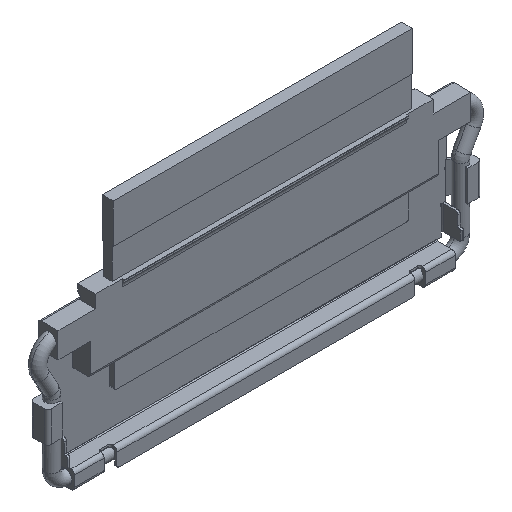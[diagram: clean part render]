
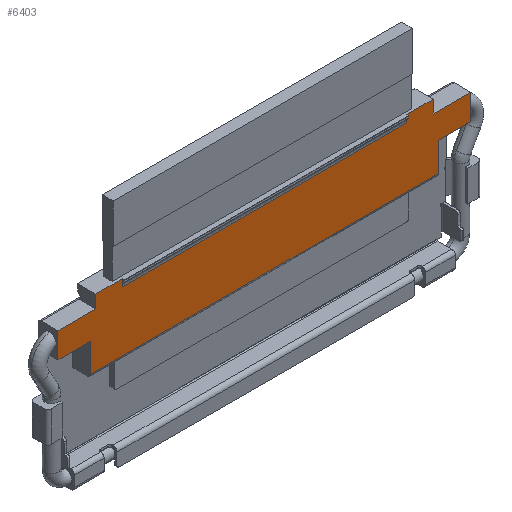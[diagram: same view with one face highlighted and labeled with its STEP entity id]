
A CAD part, isometric view. The second image highlights one B-rep face of the part: STEP entity #6403.
In plain terms, the highlighted planar face has unit normal (0, -1, 0).
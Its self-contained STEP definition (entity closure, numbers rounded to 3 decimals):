
#142 = VECTOR ( 'NONE', #5878, 1000. ) ;
#208 = ORIENTED_EDGE ( 'NONE', *, *, #3082, .F. ) ;
#307 = VERTEX_POINT ( 'NONE', #616 ) ;
#616 = CARTESIAN_POINT ( 'NONE',  ( 6.7, 0., 2.41 ) ) ;
#658 = ORIENTED_EDGE ( 'NONE', *, *, #2598, .F. ) ;
#670 = LINE ( 'NONE', #5806, #142 ) ;
#727 = VERTEX_POINT ( 'NONE', #2604 ) ;
#909 = EDGE_CURVE ( 'NONE', #13408, #10856, #670, .T. ) ;
#960 = EDGE_CURVE ( 'NONE', #12753, #13673, #7816, .T. ) ;
#1118 = CARTESIAN_POINT ( 'NONE',  ( -7.99, 0., 2.65 ) ) ;
#1198 = VERTEX_POINT ( 'NONE', #2062 ) ;
#1332 = CARTESIAN_POINT ( 'NONE',  ( 3.63, 0., 1.34 ) ) ;
#1448 = ORIENTED_EDGE ( 'NONE', *, *, #960, .T. ) ;
#1924 = VECTOR ( 'NONE', #14466, 1000. ) ;
#1928 = DIRECTION ( 'NONE',  ( 0., 0., -1. ) ) ;
#1979 = ORIENTED_EDGE ( 'NONE', *, *, #6877, .F. ) ;
#2062 = CARTESIAN_POINT ( 'NONE',  ( -9.33, 0., 0.13 ) ) ;
#2185 = EDGE_CURVE ( 'NONE', #5599, #307, #6568, .T. ) ;
#2236 = VECTOR ( 'NONE', #6159, 1000. ) ;
#2381 = DIRECTION ( 'NONE',  ( 1., 0., 0. ) ) ;
#2598 = EDGE_CURVE ( 'NONE', #14206, #7012, #12443, .T. ) ;
#2604 = CARTESIAN_POINT ( 'NONE',  ( -9.33, 0., 1.34 ) ) ;
#2715 = VECTOR ( 'NONE', #13413, 1000. ) ;
#2845 = CARTESIAN_POINT ( 'NONE',  ( 6.7, 0., 2.19 ) ) ;
#2985 = EDGE_CURVE ( 'NONE', #12771, #6577, #8842, .T. ) ;
#3030 = ORIENTED_EDGE ( 'NONE', *, *, #4555, .T. ) ;
#3049 = CARTESIAN_POINT ( 'NONE',  ( -10.7, 0., 2.19 ) ) ;
#3053 = ORIENTED_EDGE ( 'NONE', *, *, #909, .T. ) ;
#3057 = LINE ( 'NONE', #2845, #9937 ) ;
#3070 = DIRECTION ( 'NONE',  ( 0., 0., 1. ) ) ;
#3082 = EDGE_CURVE ( 'NONE', #12753, #10161, #13611, .T. ) ;
#3111 = CARTESIAN_POINT ( 'NONE',  ( -7.99, 0., 2.65 ) ) ;
#3325 = CARTESIAN_POINT ( 'NONE',  ( 3.99, 0., 2.65 ) ) ;
#3505 = CARTESIAN_POINT ( 'NONE',  ( -7.63, 0., 1.34 ) ) ;
#3649 = CARTESIAN_POINT ( 'NONE',  ( 5.11, 0., 2.95 ) ) ;
#3802 = DIRECTION ( 'NONE',  ( 0., 0., -1. ) ) ;
#3975 = VECTOR ( 'NONE', #12373, 1000. ) ;
#4104 = VECTOR ( 'NONE', #3802, 1000. ) ;
#4306 = LINE ( 'NONE', #3111, #13511 ) ;
#4317 = DIRECTION ( 'NONE',  ( 0., 0., -1. ) ) ;
#4436 = ORIENTED_EDGE ( 'NONE', *, *, #5046, .T. ) ;
#4555 = EDGE_CURVE ( 'NONE', #14206, #12851, #5473, .T. ) ;
#4589 = EDGE_LOOP ( 'NONE', ( #4436, #208, #1448, #4768, #7615, #6637, #658, #3030, #8278, #9194, #9102, #5405, #3053, #13115, #1979, #9117 ) ) ;
#4768 = ORIENTED_EDGE ( 'NONE', *, *, #9446, .F. ) ;
#4868 = CARTESIAN_POINT ( 'NONE',  ( -9.11, 0., 2.95 ) ) ;
#4961 = CARTESIAN_POINT ( 'NONE',  ( 5.33, 0., 0.13 ) ) ;
#5046 = EDGE_CURVE ( 'NONE', #1198, #10161, #5880, .T. ) ;
#5405 = ORIENTED_EDGE ( 'NONE', *, *, #12175, .T. ) ;
#5473 = LINE ( 'NONE', #14351, #12413 ) ;
#5521 = EDGE_CURVE ( 'NONE', #10856, #13412, #13059, .T. ) ;
#5597 = DIRECTION ( 'NONE',  ( -1., 0., 0. ) ) ;
#5599 = VERTEX_POINT ( 'NONE', #7385 ) ;
#5707 = EDGE_CURVE ( 'NONE', #14054, #12851, #9099, .T. ) ;
#5806 = CARTESIAN_POINT ( 'NONE',  ( -7.63, 0., 2.41 ) ) ;
#5878 = DIRECTION ( 'NONE',  ( -1., 0., 0. ) ) ;
#5880 = LINE ( 'NONE', #8109, #7421 ) ;
#6159 = DIRECTION ( 'NONE',  ( 0., 0., -1. ) ) ;
#6334 = EDGE_CURVE ( 'NONE', #727, #1198, #14559, .T. ) ;
#6403 = ADVANCED_FACE ( 'NONE', ( #12109 ), #9592, .F. ) ;
#6568 = LINE ( 'NONE', #6710, #10605 ) ;
#6576 = CARTESIAN_POINT ( 'NONE',  ( -10.7, 0., 2.41 ) ) ;
#6577 = VERTEX_POINT ( 'NONE', #4868 ) ;
#6637 = ORIENTED_EDGE ( 'NONE', *, *, #12150, .F. ) ;
#6710 = CARTESIAN_POINT ( 'NONE',  ( 3.63, 0., 2.41 ) ) ;
#6877 = EDGE_CURVE ( 'NONE', #727, #13412, #8047, .T. ) ;
#6949 = VECTOR ( 'NONE', #4317, 1000. ) ;
#7012 = VERTEX_POINT ( 'NONE', #3649 ) ;
#7016 = CARTESIAN_POINT ( 'NONE',  ( 5.11, 0., 2.65 ) ) ;
#7230 = AXIS2_PLACEMENT_3D ( 'NONE', #10011, #14418, #3070 ) ;
#7385 = CARTESIAN_POINT ( 'NONE',  ( 5.11, 0., 2.41 ) ) ;
#7421 = VECTOR ( 'NONE', #11614, 1000. ) ;
#7615 = ORIENTED_EDGE ( 'NONE', *, *, #2185, .F. ) ;
#7816 = LINE ( 'NONE', #1332, #3975 ) ;
#7860 = DIRECTION ( 'NONE',  ( -1., 0., 0. ) ) ;
#8047 = LINE ( 'NONE', #3505, #14618 ) ;
#8109 = CARTESIAN_POINT ( 'NONE',  ( 9.33, 0., 0.13 ) ) ;
#8278 = ORIENTED_EDGE ( 'NONE', *, *, #5707, .F. ) ;
#8410 = CARTESIAN_POINT ( 'NONE',  ( 3.99, 0., 2.95 ) ) ;
#8842 = LINE ( 'NONE', #14503, #13678 ) ;
#9099 = LINE ( 'NONE', #1118, #11006 ) ;
#9102 = ORIENTED_EDGE ( 'NONE', *, *, #2985, .T. ) ;
#9117 = ORIENTED_EDGE ( 'NONE', *, *, #6334, .T. ) ;
#9194 = ORIENTED_EDGE ( 'NONE', *, *, #10001, .F. ) ;
#9251 = CARTESIAN_POINT ( 'NONE',  ( 6.7, 0., 1.34 ) ) ;
#9446 = EDGE_CURVE ( 'NONE', #307, #13673, #3057, .T. ) ;
#9592 = PLANE ( 'NONE',  #7230 ) ;
#9649 = CARTESIAN_POINT ( 'NONE',  ( -10.7, 0., 1.34 ) ) ;
#9908 = CARTESIAN_POINT ( 'NONE',  ( -5.017, 0., 2.95 ) ) ;
#9937 = VECTOR ( 'NONE', #12162, 1000. ) ;
#10001 = EDGE_CURVE ( 'NONE', #12771, #14054, #4306, .T. ) ;
#10011 = CARTESIAN_POINT ( 'NONE',  ( -10.4, 0., 2.19 ) ) ;
#10019 = DIRECTION ( 'NONE',  ( 0., 0., -1. ) ) ;
#10161 = VERTEX_POINT ( 'NONE', #4961 ) ;
#10211 = DIRECTION ( 'NONE',  ( 1., 0., 0. ) ) ;
#10402 = DIRECTION ( 'NONE',  ( 0., 0., -1. ) ) ;
#10445 = CARTESIAN_POINT ( 'NONE',  ( -9.11, 0., 2.65 ) ) ;
#10605 = VECTOR ( 'NONE', #10211, 1000. ) ;
#10856 = VERTEX_POINT ( 'NONE', #6576 ) ;
#11006 = VECTOR ( 'NONE', #2381, 1000. ) ;
#11614 = DIRECTION ( 'NONE',  ( 1., 0., 0. ) ) ;
#11882 = CARTESIAN_POINT ( 'NONE',  ( -9.11, 0., 2.41 ) ) ;
#11916 = CARTESIAN_POINT ( 'NONE',  ( 5.33, 0., 1.34 ) ) ;
#12109 = FACE_OUTER_BOUND ( 'NONE', #4589, .T. ) ;
#12150 = EDGE_CURVE ( 'NONE', #7012, #5599, #14022, .T. ) ;
#12162 = DIRECTION ( 'NONE',  ( 0., 0., -1. ) ) ;
#12175 = EDGE_CURVE ( 'NONE', #6577, #13408, #12692, .T. ) ;
#12373 = DIRECTION ( 'NONE',  ( 1., 0., 0. ) ) ;
#12413 = VECTOR ( 'NONE', #10019, 1000. ) ;
#12443 = LINE ( 'NONE', #9908, #2715 ) ;
#12639 = CARTESIAN_POINT ( 'NONE',  ( 5.33, 0., 2.28 ) ) ;
#12692 = LINE ( 'NONE', #10445, #1924 ) ;
#12753 = VERTEX_POINT ( 'NONE', #11916 ) ;
#12771 = VERTEX_POINT ( 'NONE', #14592 ) ;
#12816 = CARTESIAN_POINT ( 'NONE',  ( -7.99, 0., 2.65 ) ) ;
#12851 = VERTEX_POINT ( 'NONE', #3325 ) ;
#13026 = CARTESIAN_POINT ( 'NONE',  ( -9.33, 0., 2.28 ) ) ;
#13059 = LINE ( 'NONE', #3049, #6949 ) ;
#13115 = ORIENTED_EDGE ( 'NONE', *, *, #5521, .T. ) ;
#13408 = VERTEX_POINT ( 'NONE', #11882 ) ;
#13412 = VERTEX_POINT ( 'NONE', #9649 ) ;
#13413 = DIRECTION ( 'NONE',  ( 1., 0., 0. ) ) ;
#13511 = VECTOR ( 'NONE', #1928, 1000. ) ;
#13611 = LINE ( 'NONE', #12639, #14149 ) ;
#13673 = VERTEX_POINT ( 'NONE', #9251 ) ;
#13678 = VECTOR ( 'NONE', #7860, 1000. ) ;
#14022 = LINE ( 'NONE', #7016, #4104 ) ;
#14054 = VERTEX_POINT ( 'NONE', #12816 ) ;
#14149 = VECTOR ( 'NONE', #10402, 1000. ) ;
#14206 = VERTEX_POINT ( 'NONE', #8410 ) ;
#14351 = CARTESIAN_POINT ( 'NONE',  ( 3.99, 0., 2.65 ) ) ;
#14418 = DIRECTION ( 'NONE',  ( 0., 1., 0. ) ) ;
#14466 = DIRECTION ( 'NONE',  ( 0., 0., -1. ) ) ;
#14503 = CARTESIAN_POINT ( 'NONE',  ( 1.017, 0., 2.95 ) ) ;
#14559 = LINE ( 'NONE', #13026, #2236 ) ;
#14592 = CARTESIAN_POINT ( 'NONE',  ( -7.99, 0., 2.95 ) ) ;
#14618 = VECTOR ( 'NONE', #5597, 1000. ) ;
